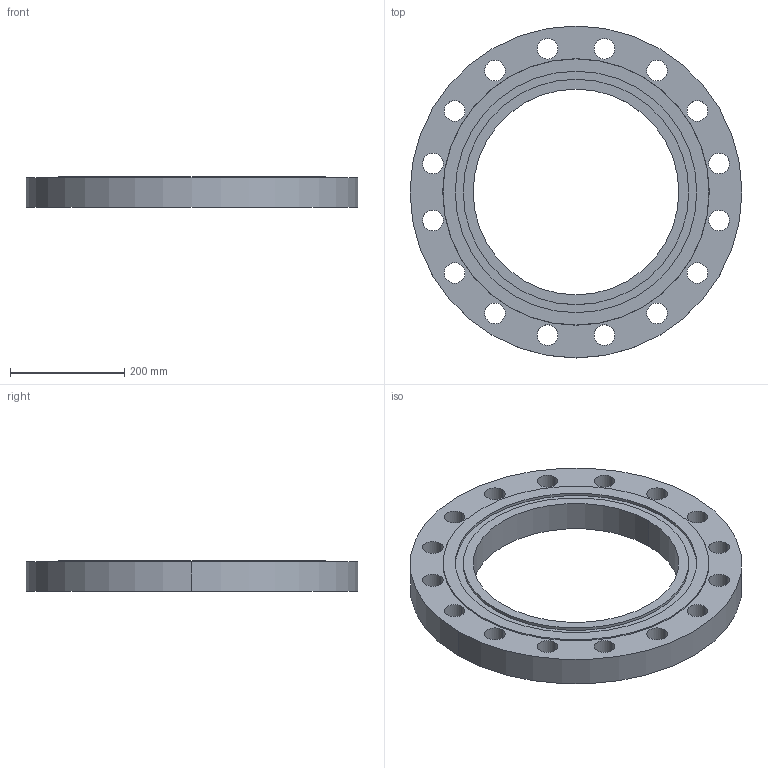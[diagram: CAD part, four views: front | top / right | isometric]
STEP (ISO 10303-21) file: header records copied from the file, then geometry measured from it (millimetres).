
FILE_DESCRIPTION (( 'STEP AP214' ), '1' );
FILE_NAME ('PN40 DN350 Type 01 - Type D Face.STEP', '2019-01-05T21:59:28', ( '' ), ( '' ), 'SwSTEP 2.0', 'SolidWorks 2019', '' );
FILE_SCHEMA (( 'AUTOMOTIVE_DESIGN' ));
Length unit declared in the file: millimetre
Products named in the file (1): PN40 DN350 Type 01 - Type D Face
Bounding box: 580 x 580 x 54 mm (x, y, z)
Volume: 7661104.2 mm3; surface area: 557940 mm2
Topology: 1 solids, 1 shells, 47 faces, 126 edges, 84 vertices
Faces by surface type: cylinder 40, plane 5, cone 2
Entity records: 1626 total; most frequent: DIRECTION 306, CARTESIAN_POINT 258, ORIENTED_EDGE 252, AXIS2_PLACEMENT_3D 132, EDGE_CURVE 126, CIRCLE 84, EDGE_LOOP 84, VERTEX_POINT 84
